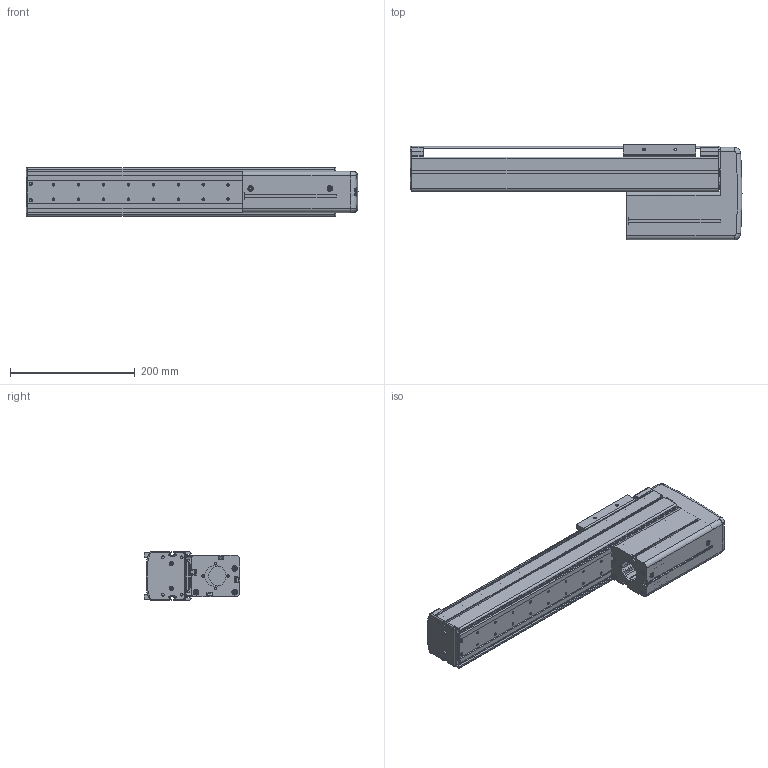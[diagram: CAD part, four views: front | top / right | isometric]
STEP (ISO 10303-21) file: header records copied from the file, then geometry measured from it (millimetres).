
FILE_DESCRIPTION((''),'2;1');
FILE_NAME('BE10E-UU-M_N-30_IGS_PRT','2017-06-17T',(' '),(''),'PRO/ENGINEER BY PARAMETRIC TECHNOLOGY CORPORATION, 2015030','PRO/ENGINEER BY PARAMETRIC TECHNOLOGY CORPORATION, 2015030','');
FILE_SCHEMA(('CONFIG_CONTROL_DESIGN'));
Length unit declared in the file: millimetre
Products named in the file (1): BE10E-UU-M_N-30_IGS_PRT
Bounding box: 532 x 153 x 78 mm (x, y, z)
Volume: 982472.7 mm3; surface area: 640352.4 mm2
Topology: 2 solids, 96 shells, 1726 faces, 4654 edges, 3001 vertices
Faces by surface type: cylinder 797, plane 701, cone 81, torus 71, sphere 44, bspline 32
Entity records: 56247 total; most frequent: CARTESIAN_POINT 11840, DIRECTION 9624, ORIENTED_EDGE 8880, EDGE_CURVE 4620, AXIS2_PLACEMENT_3D 3557, VERTEX_POINT 3001, VECTOR 2510, LINE 2510
